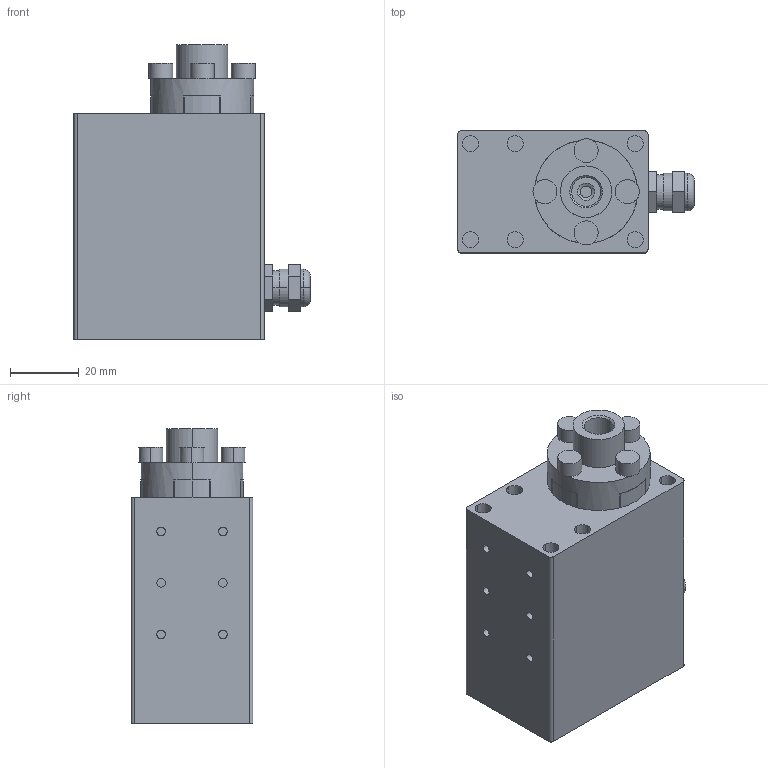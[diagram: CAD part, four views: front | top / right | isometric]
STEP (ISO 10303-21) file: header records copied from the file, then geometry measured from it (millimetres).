
FILE_DESCRIPTION (( 'STEP AP203' ), '1' );
FILE_NAME ('40kg嗆儂蚾饜.STEP', '2021-12-03T08:49:49', ( '' ), ( '' ), 'SwSTEP 2.0', 'SolidWorks 2020', '' );
FILE_SCHEMA (( 'CONFIG_CONTROL_DESIGN' ));
Length unit declared in the file: millimetre
Products named in the file (3): 40kg嗆儂蚾饜.step; 40kg嗆儂蚾饜; RM-40薊粣ん
Assembly tree (2 placements, depth 2):
  40kg嗆儂蚾饜
    RM-40薊粣ん
    40kg嗆儂蚾饜.step
Bounding box: 69 x 35.5 x 86 mm (x, y, z)
Volume: 137228.8 mm3; surface area: 26279.7 mm2
Topology: 3 solids, 7 shells, 352 faces, 842 edges, 548 vertices
Faces by surface type: cylinder 202, plane 128, cone 20, torus 2
Entity records: 10689 total; most frequent: DIRECTION 1990, CARTESIAN_POINT 1801, ORIENTED_EDGE 1668, EDGE_CURVE 834, AXIS2_PLACEMENT_3D 803, VERTEX_POINT 548, CIRCLE 446, EDGE_LOOP 408
